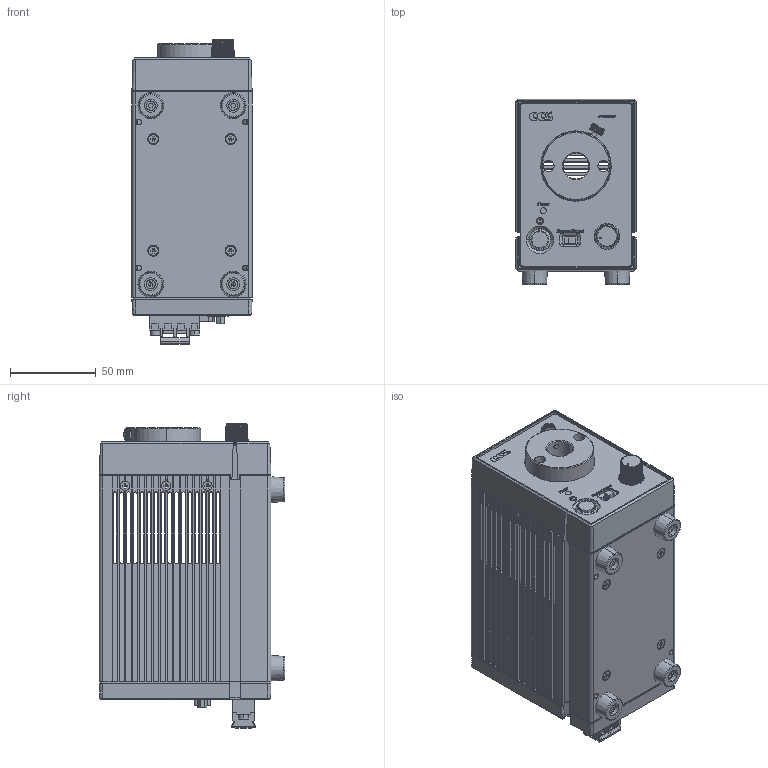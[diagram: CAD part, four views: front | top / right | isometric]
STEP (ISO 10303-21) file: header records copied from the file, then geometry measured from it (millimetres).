
FILE_DESCRIPTION (( 'STEP AP203' ), '1' );
FILE_NAME ('VL.STEP', '2021-12-27T08:35:00', ( 'CCS' ), ( 'シーシーエス株式会社' ), 'SwSTEP 2.0', 'SolidWorks 2017', '' );
FILE_SCHEMA (( 'CONFIG_CONTROL_DESIGN' ));
Products named in the file (1): VL
Bounding box: 70 x 108 x 177.58 mm (x, y, z)
Surface area: 137537.5 mm2 (no closed solid volume)
Topology: 0 solids, 95 shells, 1779 faces, 6978 edges, 5184 vertices
Faces by surface type: plane 1066, cylinder 327, cone 316, torus 30, sphere 30, bspline 10
Entity records: 79621 total; most frequent: CARTESIAN_POINT 24316, ORIENTED_EDGE 10828, DIRECTION 10562, EDGE_CURVE 6900, VERTEX_POINT 5154, LINE 3874, VECTOR 3874, AXIS2_PLACEMENT_3D 3344
